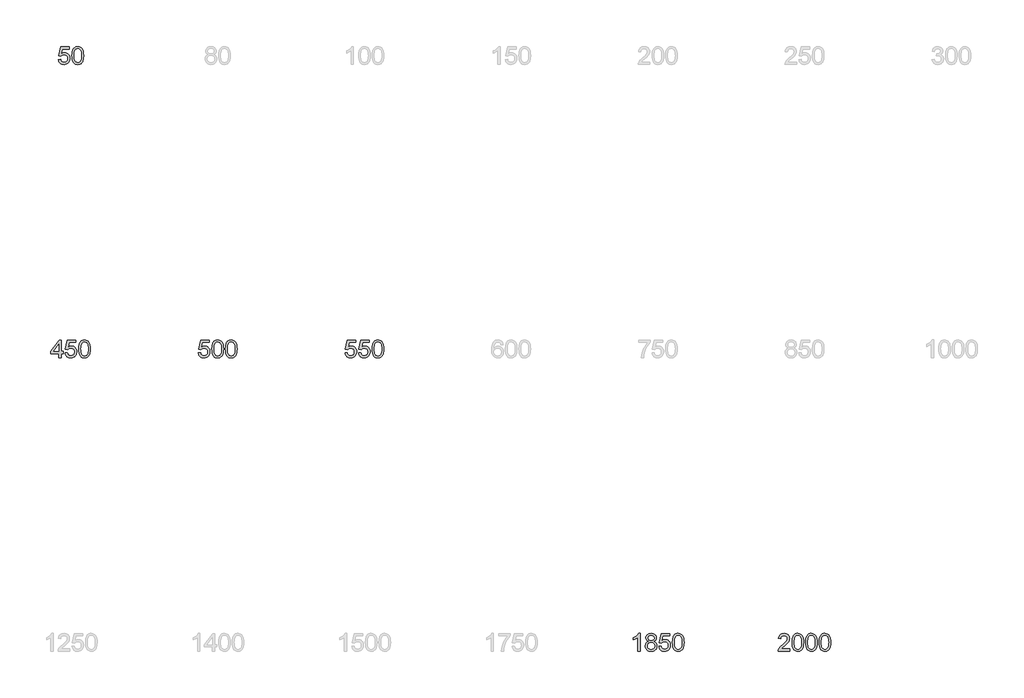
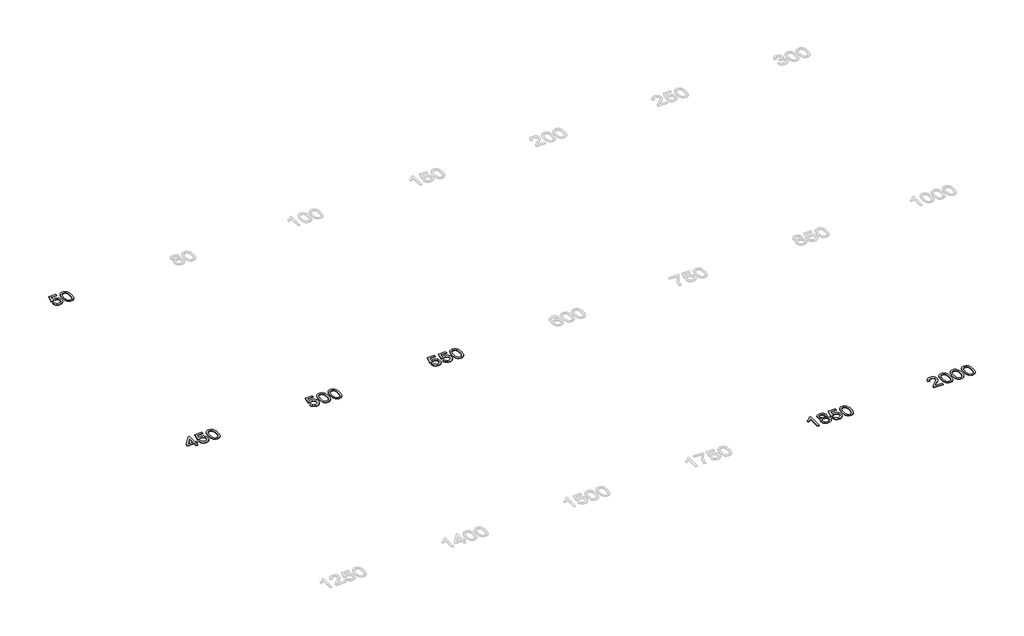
# One storey, part 3 of 8: 6 proxies.
"""IFC4 building model written with IfcOpenShell, lengths in millimetres."""

from ifc_helpers import new_model, si_unit, origin, origin_with_axes, place, context, project, spatial, polyline, outline, extrude, element, save

model = new_model("IFC4")

# Units and contexts
model_context = context("Model", 3, world=origin())
ifc_project = project(units=[si_unit("LENGTHUNIT", "METRE", prefix="MILLI")], contexts=[model_context])

# Site, building, storey
site = spatial("IfcSite", under=ifc_project)
building = spatial("IfcBuilding", under=site)
storey = spatial("IfcBuildingStorey", under=building, Name="Этаж 01", Elevation=0.0)

# Proxies
placement = place(None, origin())
element("IfcBuildingElementProxy", 1, Name="600 мм Arial", ObjectType="600 мм Arial", at=placement, inside=storey, context=model_context, shape_type="SweptSolid", body=[
    extrude(outline(polyline([(-26823.8000584, -3535.7908528), (-26748.4578258, -3526.3730738), (-26742.8292313, -3550.5935046), (-26734.6254628, -3571.6041651), (-26723.8465204, -3589.4050551), (-26710.4924039, -3603.9961747), (-26694.5907047, -3615.3591299), (-26676.1690138, -3623.4755264), (-26655.2273312, -3628.3453643), (-26631.765657, -3629.9686436), (-26603.0708613, -3627.7107679), (-26577.7605801, -3620.9371406), (-26555.8348132, -3609.6477619), (-26537.2935606, -3593.8426317), (-26522.5506896, -3574.3034992), (-26512.0200675, -3551.8121137), (-26505.7016943, -3526.3684752), (-26503.5955698, -3497.9725837), (-26505.568337, -3471.1355922), (-26511.4866386, -3447.2784448), (-26521.3504746, -3426.4011416), (-26535.159845, -3408.5036825), (-26552.9607351, -3394.1470876), (-26574.79913, -3383.892377), (-26600.6750298, -3377.7395507), (-26630.5884346, -3375.6886085), (-26667.1375108, -3378.9627583), (-26696.7336173, -3388.7852076), (-26720.3700355, -3403.8315812), (-26739.0400468, -3422.7775039), (-26814.3822794, -3413.3597248), (-26748.4578258, -3102.5730153), (-26456.5066745, -3102.5730153), (-26456.5066745, -3177.9152479), (-26687.5365674, -3177.9152479), (-26719.7630302, -3343.9036042), (-26693.174359, -3324.8473168), (-26665.9418943, -3311.235683), (-26638.0656361, -3303.0687027), (-26609.5455845, -3300.3463759), (-26572.853954, -3303.7216932), (-26539.1513647, -3313.8476451), (-26508.4378166, -3330.7242317), (-26480.7133097, -3354.3514528), (-26457.7620718, -3383.2853717), (-26441.3683304, -3416.0820516), (-26431.5320855, -3452.7414924), (-26428.2533372, -3493.2636942), (-26431.2055902, -3532.2959739), (-26440.0623493, -3568.6059268), (-26454.8236143, -3602.193553), (-26475.4893854, -3633.0588524), (-26506.7961432, -3664.6691128), (-26543.3268253, -3687.2478703), (-26585.0814318, -3700.7951247), (-26632.0599626, -3705.3108762), (-26670.9404909, -3702.409207), (-26706.0594259, -3693.7041993), (-26737.4167675, -3679.1958531), (-26765.0125156, -3658.8841684), (-26787.9729506, -3633.7808208), (-26805.4243528, -3604.8974856), (-26817.3667221, -3572.234163), (-26823.8000584, -3535.7908528)])), origin_with_axes(), (0.0, 0.0, 1.0), 20.0),
    extrude(outline(polyline([(-26362.3288837, -3399.380209), (-26356.7922597, -3302.9031558), (-26349.8714796, -3261.9900794), (-26340.1823876, -3225.9606365), (-26327.7663702, -3194.5205215), (-26312.6648143, -3167.3754288), (-26294.8777199, -3144.5253583), (-26274.4050868, -3125.9703102), (-26251.1779374, -3111.6137153), (-26225.1272936, -3101.3590047), (-26196.2531555, -3095.2061784), (-26164.5555231, -3093.1552362), (-26118.1288153, -3098.0112786), (-26076.5581498, -3112.5794056), (-26041.7933013, -3136.2894002), (-26015.7840442, -3168.5710453), (-25996.1391457, -3209.1484293), (-25980.4673727, -3257.7456409), (-25970.203465, -3319.4578456), (-25966.7821625, -3399.380209), (-25972.2636042, -3495.3054393), (-25979.1154064, -3536.0805599), (-25988.7079294, -3572.0640176), (-26001.0273777, -3603.5179281), (-26016.0599557, -3630.7044076), (-26033.8056635, -3653.6234559), (-26054.2645009, -3672.275073), (-26077.5192416, -3686.7282369), (-26103.6526588, -3697.0519254), (-26132.6647526, -3703.2461385), (-26164.5555231, -3705.3108762), (-26206.0526121, -3701.7240268), (-26242.8408117, -3690.9634784), (-26274.9201216, -3673.0292311), (-26302.2905421, -3647.921285), (-26328.5573165, -3602.5338438), (-26347.3192983, -3545.9811841), (-26358.5764873, -3478.2633058), (-26362.3288837, -3399.380209)]), holes=[polyline([(-26286.9866511, -3399.2330562), (-26284.7793591, -3464.7298469), (-26278.1574832, -3517.746241), (-26267.1210233, -3558.2822383), (-26251.6699795, -3586.337839), (-26232.9815742, -3605.426316), (-26212.2330297, -3619.0609424), (-26189.424346, -3627.2417183), (-26164.5555231, -3629.9686436), (-26139.6867002, -3627.2325213), (-26116.8780165, -3619.0241542), (-26096.129472, -3605.3435426), (-26077.4410666, -3586.1906862), (-26061.9900228, -3558.0891003), (-26050.953563, -3517.5623), (-26044.3316871, -3464.6102853), (-26042.1243951, -3399.2330562), (-26044.2581107, -3335.4699094), (-26050.6592574, -3283.3870159), (-26061.3278352, -3242.9843758), (-26076.2638442, -3214.2619891), (-26094.6395499, -3194.2400115), (-26115.6272177, -3179.9385989), (-26139.2268477, -3171.3577514), (-26165.4384399, -3168.4974689), (-26190.1785041, -3171.0174605), (-26212.6009117, -3178.5774355), (-26232.7056627, -3191.1773939), (-26250.4927572, -3208.8173355), (-26266.4588358, -3240.0873051), (-26277.8631776, -3282.2465818), (-26284.7057827, -3335.2951655), (-26286.9866511, -3399.2330562)])]), origin_with_axes(), (0.0, 0.0, 1.0), 20.0),
])
element("IfcBuildingElementProxy", 2, Name="600 мм Arial", ObjectType="600 мм Arial", at=placement, inside=storey, context=model_context, shape_type="SweptSolid", body=[
    extrude(outline(polyline([(-26809.6733898, -13695.8930971), (-26809.6733898, -13554.626411), (-27082.788983, -13554.626411), (-27082.788983, -13479.2841784), (-26790.8378317, -13102.5730153), (-26734.3311572, -13102.5730153), (-26734.3311572, -13479.2841784), (-26658.9889246, -13479.2841784), (-26658.9889246, -13554.626411), (-26734.3311572, -13554.626411), (-26734.3311572, -13695.8930971), (-26809.6733898, -13695.8930971)]), holes=[polyline([(-26809.6733898, -13479.2841784), (-26809.6733898, -13246.4884518), (-26990.0827203, -13479.2841784), (-26809.6733898, -13479.2841784)])]), origin_with_axes(), (0.0, 0.0, 1.0), 20.0),
    extrude(outline(polyline([(-26593.0644711, -13535.7908528), (-26517.7222385, -13526.3730738), (-26512.0936439, -13550.5935046), (-26503.8898754, -13571.6041651), (-26493.110933, -13589.4050551), (-26479.7568166, -13603.9961747), (-26463.8551173, -13615.3591299), (-26445.4334264, -13623.4755264), (-26424.4917438, -13628.3453643), (-26401.0300696, -13629.9686436), (-26372.335274, -13627.7107679), (-26347.0249927, -13620.9371406), (-26325.0992258, -13609.6477619), (-26306.5579732, -13593.8426317), (-26291.8151023, -13574.3034992), (-26281.2844802, -13551.8121137), (-26274.9661069, -13526.3684752), (-26272.8599825, -13497.9725837), (-26274.8327497, -13471.1355922), (-26280.7510513, -13447.2784448), (-26290.6148873, -13426.4011416), (-26304.4242577, -13408.5036825), (-26322.2251477, -13394.1470876), (-26344.0635426, -13383.892377), (-26369.9394425, -13377.7395507), (-26399.8528472, -13375.6886085), (-26436.4019234, -13378.9627583), (-26465.9980299, -13388.7852076), (-26489.6344481, -13403.8315812), (-26508.3044594, -13422.7775039), (-26583.646692, -13413.3597248), (-26517.7222385, -13102.5730153), (-26225.7710871, -13102.5730153), (-26225.7710871, -13177.9152479), (-26456.8009801, -13177.9152479), (-26489.0274428, -13343.9036042), (-26462.4387716, -13324.8473168), (-26435.2063069, -13311.235683), (-26407.3300488, -13303.0687027), (-26378.8099971, -13300.3463759), (-26342.1183666, -13303.7216932), (-26308.4157773, -13313.8476451), (-26277.7022292, -13330.7242317), (-26249.9777224, -13354.3514528), (-26227.0264844, -13383.2853717), (-26210.632743, -13416.0820516), (-26200.7964981, -13452.7414924), (-26197.5177499, -13493.2636942), (-26200.4700029, -13532.2959739), (-26209.3267619, -13568.6059268), (-26224.088027, -13602.193553), (-26244.753798, -13633.0588524), (-26276.0605558, -13664.6691128), (-26312.5912379, -13687.2478703), (-26354.3458444, -13700.7951247), (-26401.3243752, -13705.3108762), (-26440.2049035, -13702.409207), (-26475.3238385, -13693.7041993), (-26506.6811801, -13679.1958531), (-26534.2769282, -13658.8841684), (-26557.2373633, -13633.7808208), (-26574.6887654, -13604.8974856), (-26586.6311347, -13572.234163), (-26593.0644711, -13535.7908528)])), origin_with_axes(), (0.0, 0.0, 1.0), 20.0),
    extrude(outline(polyline([(-26131.5932963, -13399.380209), (-26126.0566723, -13302.9031558), (-26119.1358923, -13261.9900794), (-26109.4468002, -13225.9606365), (-26097.0307829, -13194.5205215), (-26081.929227, -13167.3754288), (-26064.1421325, -13144.5253583), (-26043.6694995, -13125.9703102), (-26020.44235, -13111.6137153), (-25994.3917062, -13101.3590047), (-25965.5175681, -13095.2061784), (-25933.8199357, -13093.1552362), (-25887.3932279, -13098.0112786), (-25845.8225625, -13112.5794056), (-25811.0577139, -13136.2894002), (-25785.0484569, -13168.5710453), (-25765.4035583, -13209.1484293), (-25749.7317853, -13257.7456409), (-25739.4678777, -13319.4578456), (-25736.0465751, -13399.380209), (-25741.5280168, -13495.3054393), (-25748.379819, -13536.0805599), (-25757.972342, -13572.0640176), (-25770.2917903, -13603.5179281), (-25785.3243684, -13630.7044076), (-25803.0700761, -13653.6234559), (-25823.5289136, -13672.275073), (-25846.7836542, -13686.7282369), (-25872.9170714, -13697.0519254), (-25901.9291653, -13703.2461385), (-25933.8199357, -13705.3108762), (-25975.3170248, -13701.7240268), (-26012.1052243, -13690.9634784), (-26044.1845343, -13673.0292311), (-26071.5549547, -13647.921285), (-26097.8217292, -13602.5338438), (-26116.5837109, -13545.9811841), (-26127.8409, -13478.2633058), (-26131.5932963, -13399.380209)]), holes=[polyline([(-26056.2510637, -13399.2330562), (-26054.0437717, -13464.7298469), (-26047.4218958, -13517.746241), (-26036.385436, -13558.2822383), (-26020.9343922, -13586.337839), (-26002.2459868, -13605.426316), (-25981.4974423, -13619.0609424), (-25958.6887586, -13627.2417183), (-25933.8199357, -13629.9686436), (-25908.9511128, -13627.2325213), (-25886.1424291, -13619.0241542), (-25865.3938846, -13605.3435426), (-25846.7054793, -13586.1906862), (-25831.2544355, -13558.0891003), (-25820.2179756, -13517.5623), (-25813.5960997, -13464.6102853), (-25811.3888077, -13399.2330562), (-25813.5225233, -13335.4699094), (-25819.92367, -13283.3870159), (-25830.5922479, -13242.9843758), (-25845.5282569, -13214.2619891), (-25863.9039625, -13194.2400115), (-25884.8916304, -13179.9385989), (-25908.4912603, -13171.3577514), (-25934.7028525, -13168.4974689), (-25959.4429167, -13171.0174605), (-25981.8653243, -13178.5774355), (-26001.9700753, -13191.1773939), (-26019.7571698, -13208.8173355), (-26035.7232484, -13240.0873051), (-26047.1275902, -13282.2465818), (-26053.9701953, -13335.2951655), (-26056.2510637, -13399.2330562)])]), origin_with_axes(), (0.0, 0.0, 1.0), 20.0),
])
element("IfcBuildingElementProxy", 3, Name="600 мм Arial", ObjectType="600 мм Arial", at=placement, inside=storey, context=model_context, shape_type="SweptSolid", body=[
    extrude(outline(polyline([(-22054.5356458, -13535.7908528), (-21979.1934132, -13526.3730738), (-21973.5648187, -13550.5935046), (-21965.3610502, -13571.6041651), (-21954.5821077, -13589.4050551), (-21941.2279913, -13603.9961747), (-21925.3262921, -13615.3591299), (-21906.9046012, -13623.4755264), (-21885.9629186, -13628.3453643), (-21862.5012443, -13629.9686436), (-21833.8064487, -13627.7107679), (-21808.4961674, -13620.9371406), (-21786.5704005, -13609.6477619), (-21768.029148, -13593.8426317), (-21753.286277, -13574.3034992), (-21742.7556549, -13551.8121137), (-21736.4372816, -13526.3684752), (-21734.3311572, -13497.9725837), (-21736.3039244, -13471.1355922), (-21742.222226, -13447.2784448), (-21752.086062, -13426.4011416), (-21765.8954324, -13408.5036825), (-21783.6963224, -13394.1470876), (-21805.5347174, -13383.892377), (-21831.4106172, -13377.7395507), (-21861.324022, -13375.6886085), (-21897.8730982, -13378.9627583), (-21927.4692047, -13388.7852076), (-21951.1056229, -13403.8315812), (-21969.7756341, -13422.7775039), (-22045.1178667, -13413.3597248), (-21979.1934132, -13102.5730153), (-21687.2422618, -13102.5730153), (-21687.2422618, -13177.9152479), (-21918.2721548, -13177.9152479), (-21950.4986176, -13343.9036042), (-21923.9099464, -13324.8473168), (-21896.6774817, -13311.235683), (-21868.8012235, -13303.0687027), (-21840.2811718, -13300.3463759), (-21803.5895413, -13303.7216932), (-21769.8869521, -13313.8476451), (-21739.173404, -13330.7242317), (-21711.4488971, -13354.3514528), (-21688.4976591, -13383.2853717), (-21672.1039177, -13416.0820516), (-21662.2676729, -13452.7414924), (-21658.9889246, -13493.2636942), (-21661.9411776, -13532.2959739), (-21670.7979366, -13568.6059268), (-21685.5592017, -13602.193553), (-21706.2249728, -13633.0588524), (-21737.5317306, -13664.6691128), (-21774.0624127, -13687.2478703), (-21815.8170191, -13700.7951247), (-21862.7955499, -13705.3108762), (-21901.6760783, -13702.409207), (-21936.7950133, -13693.7041993), (-21968.1523548, -13679.1958531), (-21995.748103, -13658.8841684), (-22018.708538, -13633.7808208), (-22036.1599402, -13604.8974856), (-22048.1023094, -13572.234163), (-22054.5356458, -13535.7908528)])), origin_with_axes(), (0.0, 0.0, 1.0), 20.0),
    extrude(outline(polyline([(-21593.0644711, -13399.380209), (-21587.527847, -13302.9031558), (-21580.607067, -13261.9900794), (-21570.917975, -13225.9606365), (-21558.5019576, -13194.5205215), (-21543.4004017, -13167.3754288), (-21525.6133073, -13144.5253583), (-21505.1406742, -13125.9703102), (-21481.9135248, -13111.6137153), (-21455.862881, -13101.3590047), (-21426.9887429, -13095.2061784), (-21395.2911105, -13093.1552362), (-21348.8644027, -13098.0112786), (-21307.2937372, -13112.5794056), (-21272.5288887, -13136.2894002), (-21246.5196316, -13168.5710453), (-21226.8747331, -13209.1484293), (-21211.2029601, -13257.7456409), (-21200.9390524, -13319.4578456), (-21197.5177499, -13399.380209), (-21202.9991916, -13495.3054393), (-21209.8509937, -13536.0805599), (-21219.4435168, -13572.0640176), (-21231.7629651, -13603.5179281), (-21246.7955431, -13630.7044076), (-21264.5412509, -13653.6234559), (-21285.0000883, -13672.275073), (-21308.2548289, -13686.7282369), (-21334.3882462, -13697.0519254), (-21363.40034, -13703.2461385), (-21395.2911105, -13705.3108762), (-21436.7881995, -13701.7240268), (-21473.576399, -13690.9634784), (-21505.655709, -13673.0292311), (-21533.0261295, -13647.921285), (-21559.2929039, -13602.5338438), (-21578.0548857, -13545.9811841), (-21589.3120747, -13478.2633058), (-21593.0644711, -13399.380209)]), holes=[polyline([(-21517.7222385, -13399.2330562), (-21515.5149465, -13464.7298469), (-21508.8930706, -13517.746241), (-21497.8566107, -13558.2822383), (-21482.4055669, -13586.337839), (-21463.7171616, -13605.426316), (-21442.968617, -13619.0609424), (-21420.1599333, -13627.2417183), (-21395.2911105, -13629.9686436), (-21370.4222876, -13627.2325213), (-21347.6136039, -13619.0241542), (-21326.8650594, -13605.3435426), (-21308.176654, -13586.1906862), (-21292.7256102, -13558.0891003), (-21281.6891504, -13517.5623), (-21275.0672744, -13464.6102853), (-21272.8599825, -13399.2330562), (-21274.993698, -13335.4699094), (-21281.3948448, -13283.3870159), (-21292.0634226, -13242.9843758), (-21306.9994316, -13214.2619891), (-21325.3751373, -13194.2400115), (-21346.3628051, -13179.9385989), (-21369.9624351, -13171.3577514), (-21396.1740273, -13168.4974689), (-21420.9140914, -13171.0174605), (-21443.336499, -13178.5774355), (-21463.4412501, -13191.1773939), (-21481.2283445, -13208.8173355), (-21497.1944231, -13240.0873051), (-21508.598765, -13282.2465818), (-21515.4413701, -13335.2951655), (-21517.7222385, -13399.2330562)])]), origin_with_axes(), (0.0, 0.0, 1.0), 20.0),
    extrude(outline(polyline([(-21131.5932963, -13399.380209), (-21126.0566723, -13302.9031558), (-21119.1358923, -13261.9900794), (-21109.4468002, -13225.9606365), (-21097.0307829, -13194.5205215), (-21081.929227, -13167.3754288), (-21064.1421325, -13144.5253583), (-21043.6694995, -13125.9703102), (-21020.44235, -13111.6137153), (-20994.3917062, -13101.3590047), (-20965.5175681, -13095.2061784), (-20933.8199357, -13093.1552362), (-20887.3932279, -13098.0112786), (-20845.8225625, -13112.5794056), (-20811.0577139, -13136.2894002), (-20785.0484569, -13168.5710453), (-20765.4035583, -13209.1484293), (-20749.7317853, -13257.7456409), (-20739.4678777, -13319.4578456), (-20736.0465751, -13399.380209), (-20741.5280168, -13495.3054393), (-20748.379819, -13536.0805599), (-20757.972342, -13572.0640176), (-20770.2917903, -13603.5179281), (-20785.3243684, -13630.7044076), (-20803.0700761, -13653.6234559), (-20823.5289136, -13672.275073), (-20846.7836542, -13686.7282369), (-20872.9170714, -13697.0519254), (-20901.9291653, -13703.2461385), (-20933.8199357, -13705.3108762), (-20975.3170248, -13701.7240268), (-21012.1052243, -13690.9634784), (-21044.1845343, -13673.0292311), (-21071.5549547, -13647.921285), (-21097.8217292, -13602.5338438), (-21116.5837109, -13545.9811841), (-21127.8409, -13478.2633058), (-21131.5932963, -13399.380209)]), holes=[polyline([(-21056.2510637, -13399.2330562), (-21054.0437717, -13464.7298469), (-21047.4218958, -13517.746241), (-21036.385436, -13558.2822383), (-21020.9343922, -13586.337839), (-21002.2459868, -13605.426316), (-20981.4974423, -13619.0609424), (-20958.6887586, -13627.2417183), (-20933.8199357, -13629.9686436), (-20908.9511128, -13627.2325213), (-20886.1424291, -13619.0241542), (-20865.3938846, -13605.3435426), (-20846.7054793, -13586.1906862), (-20831.2544355, -13558.0891003), (-20820.2179756, -13517.5623), (-20813.5960997, -13464.6102853), (-20811.3888077, -13399.2330562), (-20813.5225233, -13335.4699094), (-20819.92367, -13283.3870159), (-20830.5922479, -13242.9843758), (-20845.5282569, -13214.2619891), (-20863.9039625, -13194.2400115), (-20884.8916304, -13179.9385989), (-20908.4912603, -13171.3577514), (-20934.7028525, -13168.4974689), (-20959.4429167, -13171.0174605), (-20981.8653243, -13178.5774355), (-21001.9700753, -13191.1773939), (-21019.7571698, -13208.8173355), (-21035.7232484, -13240.0873051), (-21047.1275902, -13282.2465818), (-21053.9701953, -13335.2951655), (-21056.2510637, -13399.2330562)])]), origin_with_axes(), (0.0, 0.0, 1.0), 20.0),
])
element("IfcBuildingElementProxy", 4, Name="600 мм Arial", ObjectType="600 мм Arial", at=placement, inside=storey, context=model_context, shape_type="SweptSolid", body=[
    extrude(outline(polyline([(-17054.5356458, -13535.7908528), (-16979.1934132, -13526.3730738), (-16973.5648187, -13550.5935046), (-16965.3610502, -13571.6041651), (-16954.5821077, -13589.4050551), (-16941.2279913, -13603.9961747), (-16925.3262921, -13615.3591299), (-16906.9046012, -13623.4755264), (-16885.9629186, -13628.3453643), (-16862.5012443, -13629.9686436), (-16833.8064487, -13627.7107679), (-16808.4961674, -13620.9371406), (-16786.5704005, -13609.6477619), (-16768.029148, -13593.8426317), (-16753.286277, -13574.3034992), (-16742.7556549, -13551.8121137), (-16736.4372816, -13526.3684752), (-16734.3311572, -13497.9725837), (-16736.3039244, -13471.1355922), (-16742.222226, -13447.2784448), (-16752.086062, -13426.4011416), (-16765.8954324, -13408.5036825), (-16783.6963224, -13394.1470876), (-16805.5347174, -13383.892377), (-16831.4106172, -13377.7395507), (-16861.324022, -13375.6886085), (-16897.8730982, -13378.9627583), (-16927.4692047, -13388.7852076), (-16951.1056229, -13403.8315812), (-16969.7756341, -13422.7775039), (-17045.1178667, -13413.3597248), (-16979.1934132, -13102.5730153), (-16687.2422618, -13102.5730153), (-16687.2422618, -13177.9152479), (-16918.2721548, -13177.9152479), (-16950.4986176, -13343.9036042), (-16923.9099464, -13324.8473168), (-16896.6774817, -13311.235683), (-16868.8012235, -13303.0687027), (-16840.2811718, -13300.3463759), (-16803.5895413, -13303.7216932), (-16769.8869521, -13313.8476451), (-16739.173404, -13330.7242317), (-16711.4488971, -13354.3514528), (-16688.4976591, -13383.2853717), (-16672.1039177, -13416.0820516), (-16662.2676729, -13452.7414924), (-16658.9889246, -13493.2636942), (-16661.9411776, -13532.2959739), (-16670.7979366, -13568.6059268), (-16685.5592017, -13602.193553), (-16706.2249728, -13633.0588524), (-16737.5317306, -13664.6691128), (-16774.0624127, -13687.2478703), (-16815.8170191, -13700.7951247), (-16862.7955499, -13705.3108762), (-16901.6760783, -13702.409207), (-16936.7950133, -13693.7041993), (-16968.1523548, -13679.1958531), (-16995.748103, -13658.8841684), (-17018.708538, -13633.7808208), (-17036.1599402, -13604.8974856), (-17048.1023094, -13572.234163), (-17054.5356458, -13535.7908528)])), origin_with_axes(), (0.0, 0.0, 1.0), 20.0),
    extrude(outline(polyline([(-16593.0644711, -13535.7908528), (-16517.7222385, -13526.3730738), (-16512.0936439, -13550.5935046), (-16503.8898754, -13571.6041651), (-16493.110933, -13589.4050551), (-16479.7568166, -13603.9961747), (-16463.8551173, -13615.3591299), (-16445.4334264, -13623.4755264), (-16424.4917438, -13628.3453643), (-16401.0300696, -13629.9686436), (-16372.335274, -13627.7107679), (-16347.0249927, -13620.9371406), (-16325.0992258, -13609.6477619), (-16306.5579732, -13593.8426317), (-16291.8151023, -13574.3034992), (-16281.2844802, -13551.8121137), (-16274.9661069, -13526.3684752), (-16272.8599825, -13497.9725837), (-16274.8327497, -13471.1355922), (-16280.7510513, -13447.2784448), (-16290.6148873, -13426.4011416), (-16304.4242577, -13408.5036825), (-16322.2251477, -13394.1470876), (-16344.0635426, -13383.892377), (-16369.9394425, -13377.7395507), (-16399.8528472, -13375.6886085), (-16436.4019234, -13378.9627583), (-16465.9980299, -13388.7852076), (-16489.6344481, -13403.8315812), (-16508.3044594, -13422.7775039), (-16583.646692, -13413.3597248), (-16517.7222385, -13102.5730153), (-16225.7710871, -13102.5730153), (-16225.7710871, -13177.9152479), (-16456.8009801, -13177.9152479), (-16489.0274428, -13343.9036042), (-16462.4387716, -13324.8473168), (-16435.2063069, -13311.235683), (-16407.3300488, -13303.0687027), (-16378.8099971, -13300.3463759), (-16342.1183666, -13303.7216932), (-16308.4157773, -13313.8476451), (-16277.7022292, -13330.7242317), (-16249.9777224, -13354.3514528), (-16227.0264844, -13383.2853717), (-16210.632743, -13416.0820516), (-16200.7964981, -13452.7414924), (-16197.5177499, -13493.2636942), (-16200.4700029, -13532.2959739), (-16209.3267619, -13568.6059268), (-16224.088027, -13602.193553), (-16244.753798, -13633.0588524), (-16276.0605558, -13664.6691128), (-16312.5912379, -13687.2478703), (-16354.3458444, -13700.7951247), (-16401.3243752, -13705.3108762), (-16440.2049035, -13702.409207), (-16475.3238385, -13693.7041993), (-16506.6811801, -13679.1958531), (-16534.2769282, -13658.8841684), (-16557.2373633, -13633.7808208), (-16574.6887654, -13604.8974856), (-16586.6311347, -13572.234163), (-16593.0644711, -13535.7908528)])), origin_with_axes(), (0.0, 0.0, 1.0), 20.0),
    extrude(outline(polyline([(-16131.5932963, -13399.380209), (-16126.0566723, -13302.9031558), (-16119.1358923, -13261.9900794), (-16109.4468002, -13225.9606365), (-16097.0307829, -13194.5205215), (-16081.929227, -13167.3754288), (-16064.1421325, -13144.5253583), (-16043.6694995, -13125.9703102), (-16020.44235, -13111.6137153), (-15994.3917062, -13101.3590047), (-15965.5175681, -13095.2061784), (-15933.8199357, -13093.1552362), (-15887.3932279, -13098.0112786), (-15845.8225625, -13112.5794056), (-15811.0577139, -13136.2894002), (-15785.0484569, -13168.5710453), (-15765.4035583, -13209.1484293), (-15749.7317853, -13257.7456409), (-15739.4678777, -13319.4578456), (-15736.0465751, -13399.380209), (-15741.5280168, -13495.3054393), (-15748.379819, -13536.0805599), (-15757.972342, -13572.0640176), (-15770.2917903, -13603.5179281), (-15785.3243684, -13630.7044076), (-15803.0700761, -13653.6234559), (-15823.5289136, -13672.275073), (-15846.7836542, -13686.7282369), (-15872.9170714, -13697.0519254), (-15901.9291653, -13703.2461385), (-15933.8199357, -13705.3108762), (-15975.3170248, -13701.7240268), (-16012.1052243, -13690.9634784), (-16044.1845343, -13673.0292311), (-16071.5549547, -13647.921285), (-16097.8217292, -13602.5338438), (-16116.5837109, -13545.9811841), (-16127.8409, -13478.2633058), (-16131.5932963, -13399.380209)]), holes=[polyline([(-16056.2510637, -13399.2330562), (-16054.0437717, -13464.7298469), (-16047.4218958, -13517.746241), (-16036.385436, -13558.2822383), (-16020.9343922, -13586.337839), (-16002.2459868, -13605.426316), (-15981.4974423, -13619.0609424), (-15958.6887586, -13627.2417183), (-15933.8199357, -13629.9686436), (-15908.9511128, -13627.2325213), (-15886.1424291, -13619.0241542), (-15865.3938846, -13605.3435426), (-15846.7054793, -13586.1906862), (-15831.2544355, -13558.0891003), (-15820.2179756, -13517.5623), (-15813.5960997, -13464.6102853), (-15811.3888077, -13399.2330562), (-15813.5225233, -13335.4699094), (-15819.92367, -13283.3870159), (-15830.5922479, -13242.9843758), (-15845.5282569, -13214.2619891), (-15863.9039625, -13194.2400115), (-15884.8916304, -13179.9385989), (-15908.4912603, -13171.3577514), (-15934.7028525, -13168.4974689), (-15959.4429167, -13171.0174605), (-15981.8653243, -13178.5774355), (-16001.9700753, -13191.1773939), (-16019.7571698, -13208.8173355), (-16035.7232484, -13240.0873051), (-16047.1275902, -13282.2465818), (-16053.9701953, -13335.2951655), (-16056.2510637, -13399.2330562)])]), origin_with_axes(), (0.0, 0.0, 1.0), 20.0),
])
element("IfcBuildingElementProxy", 5, Name="600 мм Arial", ObjectType="600 мм Arial", at=placement, inside=storey, context=model_context, shape_type="SweptSolid", body=[
    extrude(outline(polyline([(-7002.7378609, -23695.8930971), (-7078.0800935, -23695.8930971), (-7078.0800935, -23226.1813657), (-7109.5340041, -23251.6204057), (-7149.4492006, -23277.0226574), (-7191.3509598, -23299.2243358), (-7228.7645587, -23315.0616557), (-7228.7645587, -23243.8397015), (-7169.5907398, -23211.6500269), (-7118.3263838, -23173.3535112), (-7077.9145466, -23132.6289743), (-7051.2982843, -23093.1552362), (-7002.7378609, -23093.1552362), (-7002.7378609, -23695.8930971)])), origin_with_axes(), (0.0, 0.0, 1.0), 20.0),
    extrude(outline(polyline([(-6714.0240711, -23363.9163847), (-6754.3623319, -23344.050757), (-6770.0203093, -23331.4691927), (-6782.6708514, -23317.1217949), (-6799.3910881, -23283.6813215), (-6804.9645003, -23244.2811599), (-6801.9294738, -23213.5538162), (-6792.8243944, -23185.3832524), (-6777.6492621, -23159.7694685), (-6756.4040769, -23136.7124645), (-6730.1097113, -23117.6561771), (-6699.7870379, -23104.0445433), (-6665.4360566, -23095.877563), (-6627.0567674, -23093.1552362), (-6588.4935373, -23095.9419424), (-6553.8850386, -23104.3020607), (-6523.2312713, -23118.2355913), (-6496.5322355, -23137.7425341), (-6474.9007742, -23161.2501935), (-6459.4497304, -23187.1858742), (-6450.1791041, -23215.549576), (-6447.0888954, -23246.341299), (-6452.5887312, -23284.4722678), (-6469.0882387, -23317.3425241), (-6481.5088546, -23331.5933529), (-6496.7713588, -23344.1059393), (-6535.8220326, -23363.9163847), (-6511.0589758, -23374.4516053), (-6489.4505071, -23387.8103203), (-6470.9966265, -23403.9925295), (-6455.6973341, -23422.9982331), (-6443.6905855, -23444.4043667), (-6435.1143364, -23467.787866), (-6429.968587, -23493.1487311), (-6428.2533372, -23520.4869618), (-6431.6562457, -23558.0661076), (-6441.8649711, -23592.5182565), (-6458.8795133, -23623.8434084), (-6482.6998725, -23652.0415633), (-6512.0752498, -23675.3468877), (-6545.7548465, -23691.993548), (-6583.7386625, -23701.9815442), (-6626.0266978, -23705.3108762), (-6668.3147332, -23701.9677486), (-6706.2985492, -23691.9383657), (-6739.9781458, -23675.2227275), (-6769.3535232, -23651.8208341), (-6793.1738823, -23623.4249426), (-6810.1884246, -23591.7273102), (-6820.39715, -23556.7279369), (-6823.8000584, -23518.4268227), (-6822.0158308, -23489.8423916), (-6816.6631477, -23463.6859818), (-6807.7420094, -23439.9575931), (-6795.2524156, -23418.6572256), (-6779.470278, -23400.1711553), (-6760.6715081, -23384.8856584), (-6738.8561058, -23372.8007349), (-6714.0240711, -23363.9163847)]), holes=[polyline([(-6729.6222677, -23246.4884518), (-6727.9530031, -23263.7605115), (-6722.9452095, -23279.3771022), (-6714.5988867, -23293.3382239), (-6702.9140348, -23305.6438767), (-6688.0378066, -23315.6870551), (-6670.117355, -23322.860754), (-6649.1526798, -23327.1649734), (-6625.143781, -23328.5997132), (-6601.7280921, -23327.1741704), (-6581.2186708, -23322.8975422), (-6563.6155174, -23315.7698286), (-6548.9186316, -23305.7910295), (-6537.3303488, -23293.7428941), (-6529.0530039, -23280.4071718), (-6524.086597, -23265.7838625), (-6522.431128, -23249.8729662), (-6524.1417793, -23233.341269), (-6529.2737331, -23218.1799323), (-6537.8269895, -23204.388956), (-6549.8015484, -23191.9683401), (-6564.8295279, -23181.699834), (-6582.543046, -23174.3651867), (-6602.9421026, -23169.9643983), (-6626.0266978, -23168.4974689), (-6649.2906355, -23169.9322086), (-6669.7862612, -23174.236428), (-6687.5135748, -23181.4101269), (-6702.4725764, -23191.4533054), (-6714.3505664, -23203.5014407), (-6722.8348449, -23216.6900102), (-6727.925412, -23231.0190139), (-6729.6222677, -23246.4884518)]), polyline([(-6748.4578258, -23515.7780723), (-6745.3124348, -23544.6016266), (-6735.8762616, -23572.505476), (-6718.4570491, -23596.8408699), (-6691.3625402, -23614.9590582), (-6658.9153482, -23626.2162473), (-6625.4380866, -23629.9686436), (-6598.1964249, -23627.9958764), (-6574.1553365, -23622.0775748), (-6553.3148215, -23612.2137388), (-6535.6748798, -23598.4043684), (-6521.6401817, -23581.5507745), (-6511.6153973, -23562.554268), (-6505.6005267, -23541.4148488), (-6503.5955698, -23518.1325171), (-6505.6649061, -23494.4777048), (-6511.8729147, -23472.9566081), (-6522.2195958, -23453.5692269), (-6536.7049494, -23436.3155613), (-6554.8231377, -23422.1521045), (-6576.0683229, -23412.0353497), (-6600.4405051, -23405.9652967), (-6627.9396842, -23403.9419458), (-6654.7812743, -23405.9377056), (-6678.5050644, -23411.9249851), (-6699.1110547, -23421.9037842), (-6716.599245, -23435.8741029), (-6730.5373741, -23452.84266), (-6740.4931806, -23471.8161739), (-6746.4666645, -23492.7946447), (-6748.4578258, -23515.7780723)])]), origin_with_axes(), (0.0, 0.0, 1.0), 20.0),
    extrude(outline(polyline([(-6362.3288837, -23535.7908528), (-6286.9866511, -23526.3730738), (-6281.3580566, -23550.5935046), (-6273.1542881, -23571.6041651), (-6262.3753456, -23589.4050551), (-6249.0212292, -23603.9961747), (-6233.1195299, -23615.3591299), (-6214.697839, -23623.4755264), (-6193.7561565, -23628.3453643), (-6170.2944822, -23629.9686436), (-6141.5996866, -23627.7107679), (-6116.2894053, -23620.9371406), (-6094.3636384, -23609.6477619), (-6075.8223859, -23593.8426317), (-6061.0795149, -23574.3034992), (-6050.5488928, -23551.8121137), (-6044.2305195, -23526.3684752), (-6042.1243951, -23497.9725837), (-6044.0971623, -23471.1355922), (-6050.0154639, -23447.2784448), (-6059.8792999, -23426.4011416), (-6073.6886703, -23408.5036825), (-6091.4895603, -23394.1470876), (-6113.3279553, -23383.892377), (-6139.2038551, -23377.7395507), (-6169.1172598, -23375.6886085), (-6205.666336, -23378.9627583), (-6235.2624426, -23388.7852076), (-6258.8988608, -23403.8315812), (-6277.568872, -23422.7775039), (-6352.9111046, -23413.3597248), (-6286.9866511, -23102.5730153), (-5995.0354997, -23102.5730153), (-5995.0354997, -23177.9152479), (-6226.0653927, -23177.9152479), (-6258.2918555, -23343.9036042), (-6231.7031843, -23324.8473168), (-6204.4707196, -23311.235683), (-6176.5944614, -23303.0687027), (-6148.0744097, -23300.3463759), (-6111.3827792, -23303.7216932), (-6077.6801899, -23313.8476451), (-6046.9666419, -23330.7242317), (-6019.242135, -23354.3514528), (-5996.290897, -23383.2853717), (-5979.8971556, -23416.0820516), (-5970.0609108, -23452.7414924), (-5966.7821625, -23493.2636942), (-5969.7344155, -23532.2959739), (-5978.5911745, -23568.6059268), (-5993.3524396, -23602.193553), (-6014.0182107, -23633.0588524), (-6045.3249685, -23664.6691128), (-6081.8556506, -23687.2478703), (-6123.610257, -23700.7951247), (-6170.5887878, -23705.3108762), (-6209.4693162, -23702.409207), (-6244.5882511, -23693.7041993), (-6275.9455927, -23679.1958531), (-6303.5413409, -23658.8841684), (-6326.5017759, -23633.7808208), (-6343.953178, -23604.8974856), (-6355.8955473, -23572.234163), (-6362.3288837, -23535.7908528)])), origin_with_axes(), (0.0, 0.0, 1.0), 20.0),
    extrude(outline(polyline([(-5900.8577089, -23399.380209), (-5895.3210849, -23302.9031558), (-5888.4003049, -23261.9900794), (-5878.7112128, -23225.9606365), (-5866.2951955, -23194.5205215), (-5851.1936396, -23167.3754288), (-5833.4065451, -23144.5253583), (-5812.9339121, -23125.9703102), (-5789.7067626, -23111.6137153), (-5763.6561188, -23101.3590047), (-5734.7819807, -23095.2061784), (-5703.0843483, -23093.1552362), (-5656.6576405, -23098.0112786), (-5615.0869751, -23112.5794056), (-5580.3221265, -23136.2894002), (-5554.3128695, -23168.5710453), (-5534.6679709, -23209.1484293), (-5518.996198, -23257.7456409), (-5508.7322903, -23319.4578456), (-5505.3109877, -23399.380209), (-5510.7924295, -23495.3054393), (-5517.6442316, -23536.0805599), (-5527.2367546, -23572.0640176), (-5539.556203, -23603.5179281), (-5554.588781, -23630.7044076), (-5572.3344887, -23653.6234559), (-5592.7933262, -23672.275073), (-5616.0480668, -23686.7282369), (-5642.181484, -23697.0519254), (-5671.1935779, -23703.2461385), (-5703.0843483, -23705.3108762), (-5744.5814374, -23701.7240268), (-5781.3696369, -23690.9634784), (-5813.4489469, -23673.0292311), (-5840.8193673, -23647.921285), (-5867.0861418, -23602.5338438), (-5885.8481235, -23545.9811841), (-5897.1053126, -23478.2633058), (-5900.8577089, -23399.380209)]), holes=[polyline([(-5825.5154763, -23399.2330562), (-5823.3081844, -23464.7298469), (-5816.6863084, -23517.746241), (-5805.6498486, -23558.2822383), (-5790.1988048, -23586.337839), (-5771.5103994, -23605.426316), (-5750.7618549, -23619.0609424), (-5727.9531712, -23627.2417183), (-5703.0843483, -23629.9686436), (-5678.2155255, -23627.2325213), (-5655.4068418, -23619.0241542), (-5634.6582972, -23605.3435426), (-5615.9698919, -23586.1906862), (-5600.5188481, -23558.0891003), (-5589.4823882, -23517.5623), (-5582.8605123, -23464.6102853), (-5580.6532203, -23399.2330562), (-5582.7869359, -23335.4699094), (-5589.1880826, -23283.3870159), (-5599.8566605, -23242.9843758), (-5614.7926695, -23214.2619891), (-5633.1683752, -23194.2400115), (-5654.156043, -23179.9385989), (-5677.755673, -23171.3577514), (-5703.9672651, -23168.4974689), (-5728.7073293, -23171.0174605), (-5751.1297369, -23178.5774355), (-5771.2344879, -23191.1773939), (-5789.0215824, -23208.8173355), (-5804.987661, -23240.0873051), (-5816.3920029, -23282.2465818), (-5823.234608, -23335.2951655), (-5825.5154763, -23399.2330562)])]), origin_with_axes(), (0.0, 0.0, 1.0), 20.0),
])
element("IfcBuildingElementProxy", 6, Name="600 мм Arial", ObjectType="600 мм Arial", at=placement, inside=storey, context=model_context, shape_type="SweptSolid", body=[
    extrude(outline(polyline([(-1899.1422911, -23620.5508645), (-1899.1422911, -23695.8930971), (-2294.6890123, -23695.8930971), (-2293.0335433, -23669.3688053), (-2286.5956084, -23643.9481594), (-2268.0175676, -23603.3523813), (-2240.8310882, -23563.9706137), (-2201.5045029, -23522.7494361), (-2146.5061446, -23476.635428), (-2065.2042237, -23404.4201924), (-2016.4230711, -23351.1140913), (-2002.195235, -23329.3354771), (-1992.0324948, -23307.8511686), (-1985.9348508, -23286.6611657), (-1983.9023027, -23265.7654684), (-1985.8198876, -23246.1067743), (-1991.5726423, -23228.0391698), (-2001.1605668, -23211.5626549), (-2014.5836611, -23196.6772297), (-2031.0969642, -23184.3485843), (-2049.955515, -23175.5424091), (-2071.1593135, -23170.2587039), (-2094.7083597, -23168.4974689), (-2119.5174017, -23170.2173172), (-2141.7052846, -23175.3768622), (-2161.2720082, -23183.9761038), (-2178.2175726, -23196.0150421), (-2191.9257754, -23211.0890068), (-2201.7804144, -23228.7933279), (-2207.7814894, -23249.1280051), (-2209.9290006, -23272.0930387), (-2285.2712332, -23262.6752596), (-2278.7919116, -23223.7809357), (-2267.0058921, -23189.7978364), (-2249.9131749, -23160.7259617), (-2227.51376, -23136.5653117), (-2200.322682, -23117.5734037), (-2168.8549758, -23104.0077551), (-2133.1106415, -23095.868366), (-2093.0896789, -23093.1552362), (-2052.7100314, -23096.1718686), (-2016.772559, -23105.2217657), (-1985.2772617, -23120.3049275), (-1958.2241395, -23141.421354), (-1936.4961091, -23167.0075468), (-1920.9760875, -23195.5000073), (-1911.6640745, -23226.8987356), (-1908.5600701, -23261.2037316), (-1911.9077963, -23297.2377731), (-1921.9509748, -23332.6464151), (-1939.7748574, -23368.6620624), (-1966.4646962, -23406.5171197), (-2009.0102489, -23451.7114228), (-2074.4012736, -23509.7448076), (-2161.0742716, -23582.2175606), (-2195.066568, -23620.5508645), (-1899.1422911, -23620.5508645)])), origin_with_axes(), (0.0, 0.0, 1.0), 20.0),
    extrude(outline(polyline([(-1823.8000584, -23399.380209), (-1818.2634344, -23302.9031558), (-1811.3426544, -23261.9900794), (-1801.6535623, -23225.9606365), (-1789.237545, -23194.5205215), (-1774.1359891, -23167.3754288), (-1756.3488946, -23144.5253583), (-1735.8762616, -23125.9703102), (-1712.6491121, -23111.6137153), (-1686.5984683, -23101.3590047), (-1657.7243302, -23095.2061784), (-1626.0266978, -23093.1552362), (-1579.59999, -23098.0112786), (-1538.0293246, -23112.5794056), (-1503.264476, -23136.2894002), (-1477.255219, -23168.5710453), (-1457.6103204, -23209.1484293), (-1441.9385475, -23257.7456409), (-1431.6746398, -23319.4578456), (-1428.2533372, -23399.380209), (-1433.734779, -23495.3054393), (-1440.5865811, -23536.0805599), (-1450.1791041, -23572.0640176), (-1462.4985525, -23603.5179281), (-1477.5311305, -23630.7044076), (-1495.2768382, -23653.6234559), (-1515.7356757, -23672.275073), (-1538.9904163, -23686.7282369), (-1565.1238335, -23697.0519254), (-1594.1359274, -23703.2461385), (-1626.0266978, -23705.3108762), (-1667.5237869, -23701.7240268), (-1704.3119864, -23690.9634784), (-1736.3912964, -23673.0292311), (-1763.7617168, -23647.921285), (-1790.0284913, -23602.5338438), (-1808.790473, -23545.9811841), (-1820.0476621, -23478.2633058), (-1823.8000584, -23399.380209)]), holes=[polyline([(-1748.4578258, -23399.2330562), (-1746.2505339, -23464.7298469), (-1739.6286579, -23517.746241), (-1728.5921981, -23558.2822383), (-1713.1411543, -23586.337839), (-1694.4527489, -23605.426316), (-1673.7042044, -23619.0609424), (-1650.8955207, -23627.2417183), (-1626.0266978, -23629.9686436), (-1601.157875, -23627.2325213), (-1578.3491913, -23619.0241542), (-1557.6006467, -23605.3435426), (-1538.9122414, -23586.1906862), (-1523.4611976, -23558.0891003), (-1512.4247377, -23517.5623), (-1505.8028618, -23464.6102853), (-1503.5955698, -23399.2330562), (-1505.7292854, -23335.4699094), (-1512.1304321, -23283.3870159), (-1522.79901, -23242.9843758), (-1537.735019, -23214.2619891), (-1556.1107247, -23194.2400115), (-1577.0983925, -23179.9385989), (-1600.6980225, -23171.3577514), (-1626.9096146, -23168.4974689), (-1651.6496788, -23171.0174605), (-1674.0720864, -23178.5774355), (-1694.1768374, -23191.1773939), (-1711.9639319, -23208.8173355), (-1727.9300105, -23240.0873051), (-1739.3343524, -23282.2465818), (-1746.1769575, -23335.2951655), (-1748.4578258, -23399.2330562)])]), origin_with_axes(), (0.0, 0.0, 1.0), 20.0),
    extrude(outline(polyline([(-1362.3288837, -23399.380209), (-1356.7922597, -23302.9031558), (-1349.8714796, -23261.9900794), (-1340.1823876, -23225.9606365), (-1327.7663702, -23194.5205215), (-1312.6648143, -23167.3754288), (-1294.8777199, -23144.5253583), (-1274.4050868, -23125.9703102), (-1251.1779374, -23111.6137153), (-1225.1272936, -23101.3590047), (-1196.2531555, -23095.2061784), (-1164.5555231, -23093.1552362), (-1118.1288153, -23098.0112786), (-1076.5581498, -23112.5794056), (-1041.7933013, -23136.2894002), (-1015.7840442, -23168.5710453), (-996.1391457, -23209.1484293), (-980.4673727, -23257.7456409), (-970.203465, -23319.4578456), (-966.7821625, -23399.380209), (-972.2636042, -23495.3054393), (-979.1154064, -23536.0805599), (-988.7079294, -23572.0640176), (-1001.0273777, -23603.5179281), (-1016.0599557, -23630.7044076), (-1033.8056635, -23653.6234559), (-1054.2645009, -23672.275073), (-1077.5192416, -23686.7282369), (-1103.6526588, -23697.0519254), (-1132.6647526, -23703.2461385), (-1164.5555231, -23705.3108762), (-1206.0526121, -23701.7240268), (-1242.8408117, -23690.9634784), (-1274.9201216, -23673.0292311), (-1302.2905421, -23647.921285), (-1328.5573165, -23602.5338438), (-1347.3192983, -23545.9811841), (-1358.5764873, -23478.2633058), (-1362.3288837, -23399.380209)]), holes=[polyline([(-1286.9866511, -23399.2330562), (-1284.7793591, -23464.7298469), (-1278.1574832, -23517.746241), (-1267.1210233, -23558.2822383), (-1251.6699795, -23586.337839), (-1232.9815742, -23605.426316), (-1212.2330297, -23619.0609424), (-1189.424346, -23627.2417183), (-1164.5555231, -23629.9686436), (-1139.6867002, -23627.2325213), (-1116.8780165, -23619.0241542), (-1096.129472, -23605.3435426), (-1077.4410666, -23586.1906862), (-1061.9900228, -23558.0891003), (-1050.953563, -23517.5623), (-1044.3316871, -23464.6102853), (-1042.1243951, -23399.2330562), (-1044.2581107, -23335.4699094), (-1050.6592574, -23283.3870159), (-1061.3278352, -23242.9843758), (-1076.2638442, -23214.2619891), (-1094.6395499, -23194.2400115), (-1115.6272177, -23179.9385989), (-1139.2268477, -23171.3577514), (-1165.4384399, -23168.4974689), (-1190.1785041, -23171.0174605), (-1212.6009117, -23178.5774355), (-1232.7056627, -23191.1773939), (-1250.4927572, -23208.8173355), (-1266.4588358, -23240.0873051), (-1277.8631776, -23282.2465818), (-1284.7057827, -23335.2951655), (-1286.9866511, -23399.2330562)])]), origin_with_axes(), (0.0, 0.0, 1.0), 20.0),
    extrude(outline(polyline([(-900.8577089, -23399.380209), (-895.3210849, -23302.9031558), (-888.4003049, -23261.9900794), (-878.7112128, -23225.9606365), (-866.2951955, -23194.5205215), (-851.1936396, -23167.3754288), (-833.4065451, -23144.5253583), (-812.9339121, -23125.9703102), (-789.7067626, -23111.6137153), (-763.6561188, -23101.3590047), (-734.7819807, -23095.2061784), (-703.0843483, -23093.1552362), (-656.6576405, -23098.0112786), (-615.0869751, -23112.5794056), (-580.3221265, -23136.2894002), (-554.3128695, -23168.5710453), (-534.6679709, -23209.1484293), (-518.996198, -23257.7456409), (-508.7322903, -23319.4578456), (-505.3109877, -23399.380209), (-510.7924295, -23495.3054393), (-517.6442316, -23536.0805599), (-527.2367546, -23572.0640176), (-539.556203, -23603.5179281), (-554.588781, -23630.7044076), (-572.3344887, -23653.6234559), (-592.7933262, -23672.275073), (-616.0480668, -23686.7282369), (-642.181484, -23697.0519254), (-671.1935779, -23703.2461385), (-703.0843483, -23705.3108762), (-744.5814374, -23701.7240268), (-781.3696369, -23690.9634784), (-813.4489469, -23673.0292311), (-840.8193673, -23647.921285), (-867.0861418, -23602.5338438), (-885.8481235, -23545.9811841), (-897.1053126, -23478.2633058), (-900.8577089, -23399.380209)]), holes=[polyline([(-825.5154763, -23399.2330562), (-823.3081844, -23464.7298469), (-816.6863084, -23517.746241), (-805.6498486, -23558.2822383), (-790.1988048, -23586.337839), (-771.5103994, -23605.426316), (-750.7618549, -23619.0609424), (-727.9531712, -23627.2417183), (-703.0843483, -23629.9686436), (-678.2155255, -23627.2325213), (-655.4068418, -23619.0241542), (-634.6582972, -23605.3435426), (-615.9698919, -23586.1906862), (-600.5188481, -23558.0891003), (-589.4823882, -23517.5623), (-582.8605123, -23464.6102853), (-580.6532203, -23399.2330562), (-582.7869359, -23335.4699094), (-589.1880826, -23283.3870159), (-599.8566605, -23242.9843758), (-614.7926695, -23214.2619891), (-633.1683752, -23194.2400115), (-654.156043, -23179.9385989), (-677.755673, -23171.3577514), (-703.9672651, -23168.4974689), (-728.7073293, -23171.0174605), (-751.1297369, -23178.5774355), (-771.2344879, -23191.1773939), (-789.0215824, -23208.8173355), (-804.987661, -23240.0873051), (-816.3920029, -23282.2465818), (-823.234608, -23335.2951655), (-825.5154763, -23399.2330562)])]), origin_with_axes(), (0.0, 0.0, 1.0), 20.0),
])

save(model, "model.ifc")
